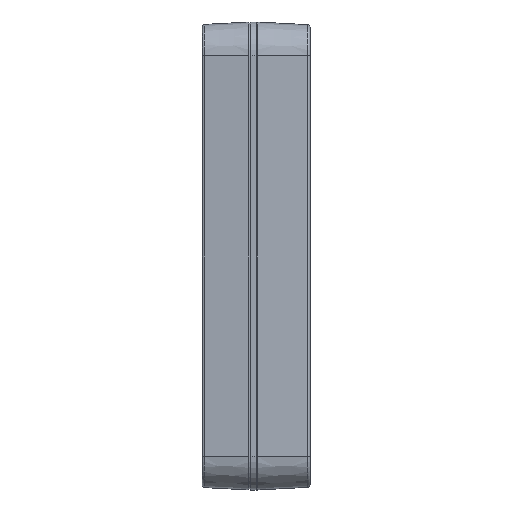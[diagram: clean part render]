
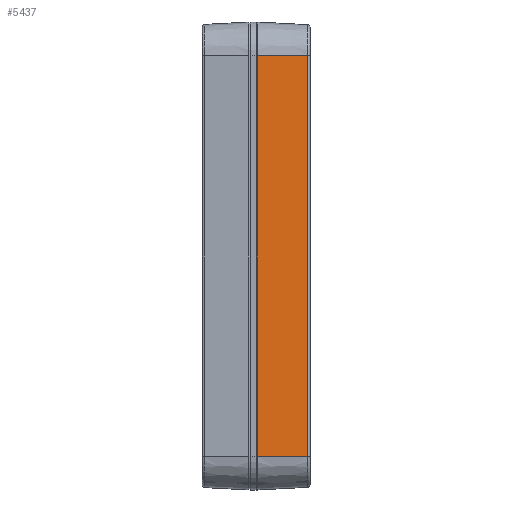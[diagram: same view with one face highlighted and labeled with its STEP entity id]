
A CAD part, left-side view. The second image highlights one B-rep face of the part: STEP entity #5437.
In plain terms, the highlighted planar face has unit normal (-0.999, -0.052, 0).
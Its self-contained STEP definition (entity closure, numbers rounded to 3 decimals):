
#1225 = EDGE_LOOP ( 'NONE', ( #10493, #8958, #16403, #17097 ) ) ;
#1271 = EDGE_CURVE ( 'NONE', #9426, #17165, #15491, .T. ) ;
#1390 = EDGE_CURVE ( 'NONE', #9426, #1554, #7407, .T. ) ;
#1544 = CARTESIAN_POINT ( 'NONE',  ( -117.5, -3., 83.5 ) ) ;
#1554 = VERTEX_POINT ( 'NONE', #4821 ) ;
#2333 = CARTESIAN_POINT ( 'NONE',  ( -117.5, -3., 83.5 ) ) ;
#2889 = DIRECTION ( 'NONE',  ( 0., 0., -1. ) ) ;
#2965 = FACE_OUTER_BOUND ( 'NONE', #1225, .T. ) ;
#3534 = CARTESIAN_POINT ( 'NONE',  ( -117.5, -3., 83.5 ) ) ;
#3882 = EDGE_CURVE ( 'NONE', #17165, #17012, #18043, .T. ) ;
#4141 = EDGE_CURVE ( 'NONE', #17012, #1554, #4320, .T. ) ;
#4320 = LINE ( 'NONE', #7477, #10509 ) ;
#4821 = CARTESIAN_POINT ( 'NONE',  ( -117.5, -3., -83.5 ) ) ;
#5437 = ADVANCED_FACE ( 'NONE', ( #2965 ), #14573, .T. ) ;
#5498 = DIRECTION ( 'NONE',  ( 0., 0., 1. ) ) ;
#5588 = DIRECTION ( 'NONE',  ( -0.052, 0.999, 0. ) ) ;
#6720 = CARTESIAN_POINT ( 'NONE',  ( -116.397, -24.052, -83.5 ) ) ;
#7407 = LINE ( 'NONE', #12818, #13860 ) ;
#7477 = CARTESIAN_POINT ( 'NONE',  ( -117.5, -3., 83.5 ) ) ;
#8958 = ORIENTED_EDGE ( 'NONE', *, *, #1271, .T. ) ;
#9426 = VERTEX_POINT ( 'NONE', #6720 ) ;
#10298 = DIRECTION ( 'NONE',  ( -0.999, -0.052, 0. ) ) ;
#10493 = ORIENTED_EDGE ( 'NONE', *, *, #1390, .F. ) ;
#10509 = VECTOR ( 'NONE', #2889, 1000. ) ;
#11108 = CARTESIAN_POINT ( 'NONE',  ( -116.397, -24.052, 83.5 ) ) ;
#12818 = CARTESIAN_POINT ( 'NONE',  ( -117.5, -3., -83.5 ) ) ;
#13860 = VECTOR ( 'NONE', #5588, 1000. ) ;
#14573 = PLANE ( 'NONE',  #17543 ) ;
#14765 = VECTOR ( 'NONE', #15194, 1000. ) ;
#15194 = DIRECTION ( 'NONE',  ( -0.052, 0.999, 0. ) ) ;
#15491 = LINE ( 'NONE', #11108, #15987 ) ;
#15633 = CARTESIAN_POINT ( 'NONE',  ( -116.397, -24.052, 83.5 ) ) ;
#15987 = VECTOR ( 'NONE', #5498, 1000. ) ;
#16403 = ORIENTED_EDGE ( 'NONE', *, *, #3882, .T. ) ;
#17012 = VERTEX_POINT ( 'NONE', #3534 ) ;
#17097 = ORIENTED_EDGE ( 'NONE', *, *, #4141, .T. ) ;
#17165 = VERTEX_POINT ( 'NONE', #15633 ) ;
#17543 = AXIS2_PLACEMENT_3D ( 'NONE', #1544, #10298, #17610 ) ;
#17610 = DIRECTION ( 'NONE',  ( 0.052, -0.999, 0. ) ) ;
#18043 = LINE ( 'NONE', #2333, #14765 ) ;
